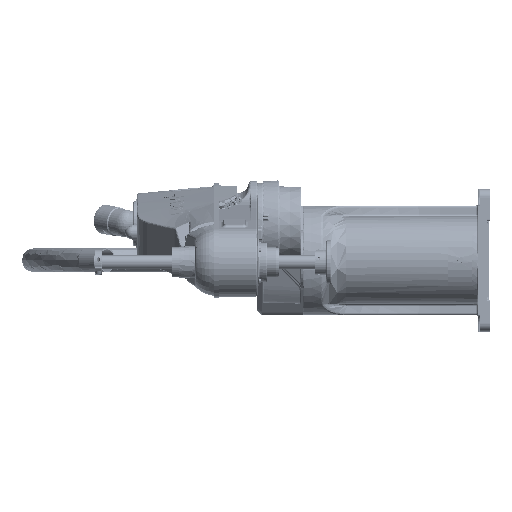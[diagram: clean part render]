
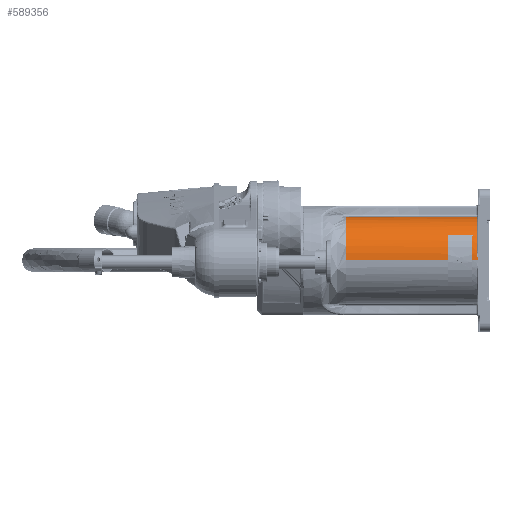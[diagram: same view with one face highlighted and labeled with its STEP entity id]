
A CAD part, left-side view. The second image highlights one B-rep face of the part: STEP entity #589356.
In plain terms, the highlighted cylindrical face has radius 80 mm (diameter 160 mm), a partial arc.
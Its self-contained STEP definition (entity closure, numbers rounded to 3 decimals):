
#1307 = ORIENTED_EDGE ( 'NONE', *, *, #67377, .F. ) ;
#4536 = CARTESIAN_POINT ( 'NONE',  ( -336.501, -555.275, -508.319 ) ) ;
#7637 = CARTESIAN_POINT ( 'NONE',  ( -335.163, -553.356, -493.674 ) ) ;
#25437 = LINE ( 'NONE', #260189, #769091 ) ;
#27181 = CARTESIAN_POINT ( 'NONE',  ( -256.501, -313.974, -508.319 ) ) ;
#39448 = VERTEX_POINT ( 'NONE', #48138 ) ;
#40589 = DIRECTION ( 'NONE',  ( 0., 1., 0. ) ) ;
#48138 = CARTESIAN_POINT ( 'NONE',  ( -261.994, -313.974, -428.508 ) ) ;
#55116 = VERTEX_POINT ( 'NONE', #271574 ) ;
#67377 = EDGE_CURVE ( 'NONE', #55116, #722912, #401927, .T. ) ;
#80162 = CARTESIAN_POINT ( 'NONE',  ( -334.549, -553.275, -490.758 ) ) ;
#86718 = CIRCLE ( 'NONE', #396234, 80. ) ;
#97597 = VECTOR ( 'NONE', #40589, 1000. ) ;
#99692 = DIRECTION ( 'NONE',  ( -1., 0., 0. ) ) ;
#123676 = ORIENTED_EDGE ( 'NONE', *, *, #305350, .F. ) ;
#125119 = DIRECTION ( 'NONE',  ( 0., 1., 0. ) ) ;
#126066 = ORIENTED_EDGE ( 'NONE', *, *, #494347, .T. ) ;
#149539 = CARTESIAN_POINT ( 'NONE',  ( -336.498, -555.158, -507.585 ) ) ;
#150650 = ORIENTED_EDGE ( 'NONE', *, *, #204131, .T. ) ;
#161698 = DIRECTION ( 'NONE',  ( 0., 1., 0. ) ) ;
#177463 = VERTEX_POINT ( 'NONE', #192388 ) ;
#188836 = DIRECTION ( 'NONE',  ( 0., 1., 0. ) ) ;
#192388 = CARTESIAN_POINT ( 'NONE',  ( -336.501, -313.974, -508.319 ) ) ;
#204131 = EDGE_CURVE ( 'NONE', #55116, #303110, #829344, .T. ) ;
#215875 = ORIENTED_EDGE ( 'NONE', *, *, #490358, .T. ) ;
#221983 = CARTESIAN_POINT ( 'NONE',  ( -336.48, -554.982, -506.483 ) ) ;
#222846 = CARTESIAN_POINT ( 'NONE',  ( -321.501, -500.275, -461.682 ) ) ;
#224201 = FACE_OUTER_BOUND ( 'NONE', #237068, .T. ) ;
#229462 = AXIS2_PLACEMENT_3D ( 'NONE', #593112, #161698, #665489 ) ;
#230308 = VERTEX_POINT ( 'NONE', #584307 ) ;
#237068 = EDGE_LOOP ( 'NONE', ( #265476, #478302, #752637, #126066, #300716, #123676, #445203, #215875, #1307, #150650 ) ) ;
#238827 = CARTESIAN_POINT ( 'NONE',  ( -258.301, -317.705, -428.319 ) ) ;
#260189 = CARTESIAN_POINT ( 'NONE',  ( -336.501, -235.275, -508.319 ) ) ;
#265476 = ORIENTED_EDGE ( 'NONE', *, *, #736866, .F. ) ;
#271574 = CARTESIAN_POINT ( 'NONE',  ( -321.501, -545.275, -461.682 ) ) ;
#281801 = EDGE_CURVE ( 'NONE', #539284, #738380, #619846, .T. ) ;
#289333 = LINE ( 'NONE', #758517, #97597 ) ;
#294558 = CARTESIAN_POINT ( 'NONE',  ( -336.42, -554.693, -504.65 ) ) ;
#300716 = ORIENTED_EDGE ( 'NONE', *, *, #503510, .T. ) ;
#303110 = VERTEX_POINT ( 'NONE', #566118 ) ;
#305350 = EDGE_CURVE ( 'NONE', #177463, #39448, #411676, .T. ) ;
#317368 = DIRECTION ( 'NONE',  ( 0., -1., 0. ) ) ;
#366881 = CARTESIAN_POINT ( 'NONE',  ( -336.178, -554.145, -500.99 ) ) ;
#373562 = CARTESIAN_POINT ( 'NONE',  ( -334.549, -553.275, -490.758 ) ) ;
#396234 = AXIS2_PLACEMENT_3D ( 'NONE', #556558, #125119, #628967 ) ;
#401927 = LINE ( 'NONE', #537360, #762322 ) ;
#411676 = CIRCLE ( 'NONE', #706844, 80. ) ;
#439168 = CARTESIAN_POINT ( 'NONE',  ( -335.652, -553.602, -496.603 ) ) ;
#445203 = ORIENTED_EDGE ( 'NONE', *, *, #549773, .F. ) ;
#455894 = CARTESIAN_POINT ( 'NONE',  ( -261.994, -313.974, -428.508 ) ) ;
#458753 = AXIS2_PLACEMENT_3D ( 'NONE', #748421, #317368, #820895 ) ;
#461014 = B_SPLINE_CURVE_WITH_KNOTS ( 'NONE', 3,
 ( #814858, #238827, #887237, #455894 ),
 .UNSPECIFIED., .F., .F.,
 ( 4, 4 ),
 ( 0., 0.008 ),
 .UNSPECIFIED. ) ;
#477203 = DIRECTION ( 'NONE',  ( 0., 1., 0. ) ) ;
#478302 = ORIENTED_EDGE ( 'NONE', *, *, #773448, .T. ) ;
#490358 = EDGE_CURVE ( 'NONE', #230308, #722912, #86718, .T. ) ;
#494347 = EDGE_CURVE ( 'NONE', #738380, #578878, #289333, .T. ) ;
#503510 = EDGE_CURVE ( 'NONE', #578878, #39448, #461014, .T. ) ;
#511603 = CARTESIAN_POINT ( 'NONE',  ( -334.877, -553.275, -492.213 ) ) ;
#531135 = DIRECTION ( 'NONE',  ( 0., 1., 0. ) ) ;
#537360 = CARTESIAN_POINT ( 'NONE',  ( -321.501, -235.275, -461.682 ) ) ;
#539284 = VERTEX_POINT ( 'NONE', #373562 ) ;
#549773 = EDGE_CURVE ( 'NONE', #230308, #177463, #25437, .T. ) ;
#556558 = CARTESIAN_POINT ( 'NONE',  ( -256.501, -500.275, -508.319 ) ) ;
#566118 = CARTESIAN_POINT ( 'NONE',  ( -336.501, -545.275, -508.319 ) ) ;
#570293 = VECTOR ( 'NONE', #711635, 1000. ) ;
#577816 = CARTESIAN_POINT ( 'NONE',  ( -336.501, -555.217, -507.953 ) ) ;
#578878 = VERTEX_POINT ( 'NONE', #708857 ) ;
#584307 = CARTESIAN_POINT ( 'NONE',  ( -336.501, -500.275, -508.319 ) ) ;
#589356 = ADVANCED_FACE ( 'NONE', ( #224201 ), #753520, .T. ) ;
#593112 = CARTESIAN_POINT ( 'NONE',  ( -256.501, -553.275, -508.319 ) ) ;
#609556 = B_SPLINE_CURVE_WITH_KNOTS ( 'NONE', 3,
 ( #4536, #577816, #149539, #653341, #221983, #725590, #294558, #798077, #366881, #870406, #439168, #7637, #511603, #80162 ),
 .UNSPECIFIED., .F., .F.,
 ( 4, 2, 2, 2, 2, 2, 4 ),
 ( 0., 0.001, 0.002, 0.004, 0.009, 0.013, 0.018 ),
 .UNSPECIFIED. ) ;
#609846 = DIRECTION ( 'NONE',  ( 0., 1., 0. ) ) ;
#619846 = CIRCLE ( 'NONE', #229462, 80. ) ;
#620217 = CARTESIAN_POINT ( 'NONE',  ( -256.501, -235.275, -508.319 ) ) ;
#628967 = DIRECTION ( 'NONE',  ( 0., 0., -1. ) ) ;
#653341 = CARTESIAN_POINT ( 'NONE',  ( -336.488, -555.04, -506.85 ) ) ;
#665489 = DIRECTION ( 'NONE',  ( 1., 0., 0. ) ) ;
#675962 = CARTESIAN_POINT ( 'NONE',  ( -336.501, -555.275, -508.319 ) ) ;
#692524 = DIRECTION ( 'NONE',  ( -1., 0., 0. ) ) ;
#706844 = AXIS2_PLACEMENT_3D ( 'NONE', #27181, #531135, #99692 ) ;
#708857 = CARTESIAN_POINT ( 'NONE',  ( -256.501, -319.619, -428.319 ) ) ;
#711635 = DIRECTION ( 'NONE',  ( 0., 1., 0. ) ) ;
#722912 = VERTEX_POINT ( 'NONE', #222846 ) ;
#725590 = CARTESIAN_POINT ( 'NONE',  ( -336.45, -554.808, -505.383 ) ) ;
#736866 = EDGE_CURVE ( 'NONE', #779784, #303110, #761739, .T. ) ;
#738380 = VERTEX_POINT ( 'NONE', #778359 ) ;
#748421 = CARTESIAN_POINT ( 'NONE',  ( -256.501, -545.275, -508.319 ) ) ;
#752637 = ORIENTED_EDGE ( 'NONE', *, *, #281801, .T. ) ;
#753520 = CYLINDRICAL_SURFACE ( 'NONE', #871990, 80. ) ;
#758517 = CARTESIAN_POINT ( 'NONE',  ( -256.501, -835.454, -428.319 ) ) ;
#761739 = LINE ( 'NONE', #925926, #570293 ) ;
#762322 = VECTOR ( 'NONE', #609846, 1000. ) ;
#769091 = VECTOR ( 'NONE', #477203, 1000. ) ;
#773448 = EDGE_CURVE ( 'NONE', #779784, #539284, #609556, .T. ) ;
#778359 = CARTESIAN_POINT ( 'NONE',  ( -256.501, -553.275, -428.319 ) ) ;
#779784 = VERTEX_POINT ( 'NONE', #675962 ) ;
#798077 = CARTESIAN_POINT ( 'NONE',  ( -336.299, -554.358, -502.453 ) ) ;
#814858 = CARTESIAN_POINT ( 'NONE',  ( -256.501, -319.619, -428.319 ) ) ;
#820895 = DIRECTION ( 'NONE',  ( 0., 0., 1. ) ) ;
#829344 = CIRCLE ( 'NONE', #458753, 80. ) ;
#870406 = CARTESIAN_POINT ( 'NONE',  ( -335.854, -553.767, -498.065 ) ) ;
#871990 = AXIS2_PLACEMENT_3D ( 'NONE', #620217, #188836, #692524 ) ;
#887237 = CARTESIAN_POINT ( 'NONE',  ( -260.132, -315.823, -428.38 ) ) ;
#925926 = CARTESIAN_POINT ( 'NONE',  ( -336.501, -235.275, -508.319 ) ) ;
